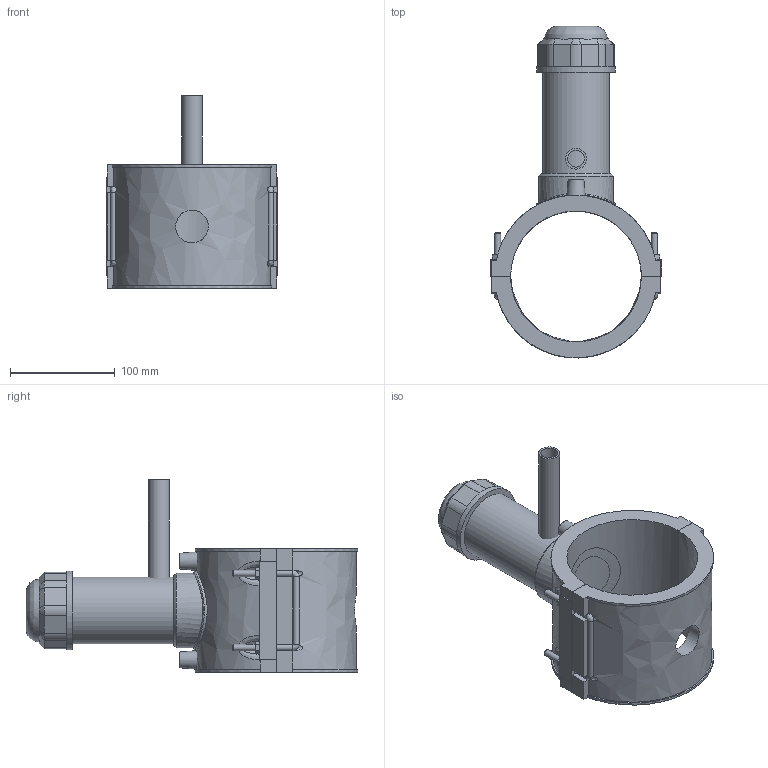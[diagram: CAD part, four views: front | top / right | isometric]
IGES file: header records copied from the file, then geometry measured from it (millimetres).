
Global section: file name: 4963P4125020; native system: Autodesk Inventor 2019; preprocessor: unknown; author: KIM; date: 20220317.112823; units: millimetre
Bounding box: 164 x 317.24 x 184 mm (x, y, z)
Volume: 1104574.1 mm3; surface area: 221116.3 mm2
Topology: 3 solids, 5 shells, 201 faces, 517 edges, 333 vertices
Faces by surface type: bspline 201
